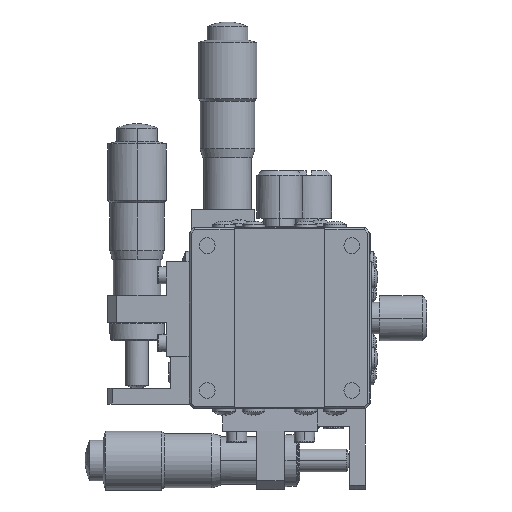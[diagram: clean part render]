
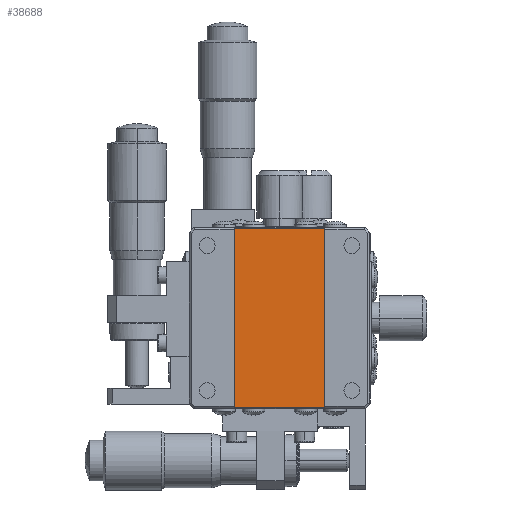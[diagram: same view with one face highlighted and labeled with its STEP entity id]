
A CAD part, front view. The second image highlights one B-rep face of the part: STEP entity #38688.
In plain terms, the highlighted planar face has unit normal (0, 1, 0).
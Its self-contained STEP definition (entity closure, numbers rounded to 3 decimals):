
#2384 = CARTESIAN_POINT ( 'NONE',  ( -67.991, -22.63, 18.213 ) ) ;
#3585 = CARTESIAN_POINT ( 'NONE',  ( -87.991, -22.63, -21.387 ) ) ;
#5914 = DIRECTION ( 'NONE',  ( 0., 0., -1. ) ) ;
#6168 = VERTEX_POINT ( 'NONE', #10625 ) ;
#7363 = FACE_OUTER_BOUND ( 'NONE', #16137, .T. ) ;
#7784 = EDGE_CURVE ( 'NONE', #6168, #8273, #15760, .T. ) ;
#8273 = VERTEX_POINT ( 'NONE', #2384 ) ;
#8672 = DIRECTION ( 'NONE',  ( 0., 0., 1. ) ) ;
#10625 = CARTESIAN_POINT ( 'NONE',  ( -87.991, -22.63, 18.213 ) ) ;
#10975 = ORIENTED_EDGE ( 'NONE', *, *, #12676, .T. ) ;
#11271 = DIRECTION ( 'NONE',  ( 0., 1., 0. ) ) ;
#11360 = EDGE_CURVE ( 'NONE', #29887, #6168, #29994, .T. ) ;
#11389 = CARTESIAN_POINT ( 'NONE',  ( -87.991, -22.63, 18.413 ) ) ;
#12676 = EDGE_CURVE ( 'NONE', #33404, #29887, #22327, .T. ) ;
#12871 = DIRECTION ( 'NONE',  ( 1., 0., 0. ) ) ;
#13270 = CARTESIAN_POINT ( 'NONE',  ( -87.991, -22.63, 18.213 ) ) ;
#14543 = ORIENTED_EDGE ( 'NONE', *, *, #22538, .T. ) ;
#15686 = LINE ( 'NONE', #24379, #18108 ) ;
#15760 = LINE ( 'NONE', #13270, #26311 ) ;
#16137 = EDGE_LOOP ( 'NONE', ( #10975, #28976, #25997, #14543 ) ) ;
#17860 = PLANE ( 'NONE',  #18963 ) ;
#18108 = VECTOR ( 'NONE', #5914, 1000. ) ;
#18963 = AXIS2_PLACEMENT_3D ( 'NONE', #20940, #11271, #35771 ) ;
#20940 = CARTESIAN_POINT ( 'NONE',  ( -87.991, -22.63, 18.413 ) ) ;
#21928 = DIRECTION ( 'NONE',  ( -1., 0., 0. ) ) ;
#22327 = LINE ( 'NONE', #3585, #37792 ) ;
#22538 = EDGE_CURVE ( 'NONE', #8273, #33404, #15686, .T. ) ;
#24379 = CARTESIAN_POINT ( 'NONE',  ( -67.991, -22.63, 18.413 ) ) ;
#25997 = ORIENTED_EDGE ( 'NONE', *, *, #7784, .T. ) ;
#26311 = VECTOR ( 'NONE', #12871, 1000. ) ;
#28293 = CARTESIAN_POINT ( 'NONE',  ( -87.991, -22.63, -21.387 ) ) ;
#28976 = ORIENTED_EDGE ( 'NONE', *, *, #11360, .T. ) ;
#29887 = VERTEX_POINT ( 'NONE', #28293 ) ;
#29994 = LINE ( 'NONE', #11389, #36300 ) ;
#29999 = CARTESIAN_POINT ( 'NONE',  ( -67.991, -22.63, -21.387 ) ) ;
#33404 = VERTEX_POINT ( 'NONE', #29999 ) ;
#35771 = DIRECTION ( 'NONE',  ( 0., 0., 1. ) ) ;
#36300 = VECTOR ( 'NONE', #8672, 1000. ) ;
#37792 = VECTOR ( 'NONE', #21928, 1000. ) ;
#38688 = ADVANCED_FACE ( 'NONE', ( #7363 ), #17860, .T. ) ;
